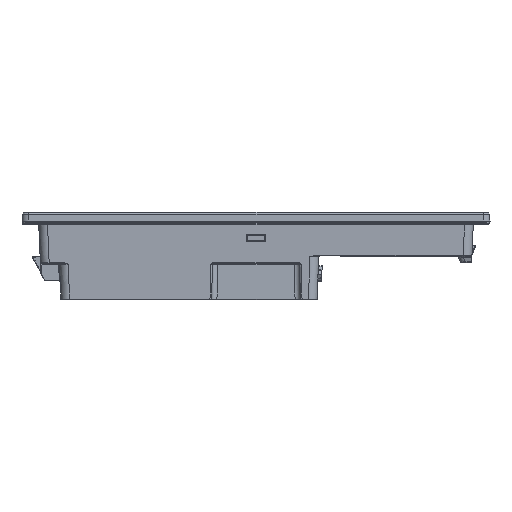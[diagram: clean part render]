
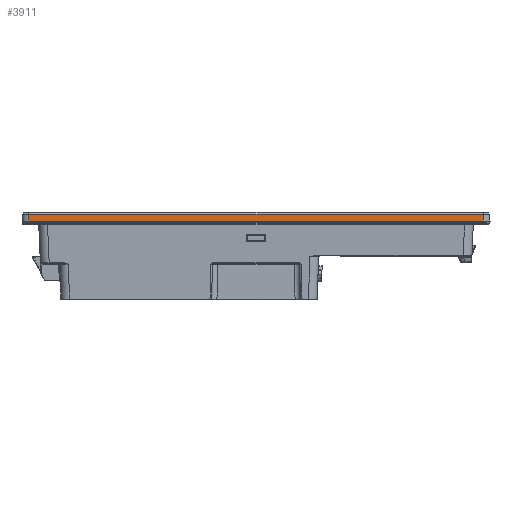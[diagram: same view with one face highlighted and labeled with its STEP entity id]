
A CAD part, left-side view. The second image highlights one B-rep face of the part: STEP entity #3911.
In plain terms, the highlighted planar face has unit normal (-1, 0, 0).
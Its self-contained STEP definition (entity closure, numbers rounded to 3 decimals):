
#575 = FACE_OUTER_BOUND ( 'NONE', #40492, .T. ) ;
#1556 = CARTESIAN_POINT ( 'NONE',  ( 0., 264., 45. ) ) ;
#2416 = CARTESIAN_POINT ( 'NONE',  ( 0., 134., 47. ) ) ;
#3911 = ADVANCED_FACE ( 'NONE', ( #575 ), #15491, .F. ) ;
#6215 = VERTEX_POINT ( 'NONE', #37301 ) ;
#7930 = VECTOR ( 'NONE', #21344, 1000. ) ;
#8009 = CARTESIAN_POINT ( 'NONE',  ( 0., 134., 45. ) ) ;
#8173 = CARTESIAN_POINT ( 'NONE',  ( 0., 264., 49. ) ) ;
#8910 = DIRECTION ( 'NONE',  ( 0., 0., -1. ) ) ;
#11237 = CARTESIAN_POINT ( 'NONE',  ( 0., 4., 45. ) ) ;
#13918 = CARTESIAN_POINT ( 'NONE',  ( 0., 264., 49. ) ) ;
#15491 = PLANE ( 'NONE',  #37176 ) ;
#16656 = LINE ( 'NONE', #8009, #7930 ) ;
#18787 = ORIENTED_EDGE ( 'NONE', *, *, #39276, .F. ) ;
#19461 = EDGE_CURVE ( 'NONE', #22579, #29236, #33512, .T. ) ;
#20675 = ORIENTED_EDGE ( 'NONE', *, *, #28034, .F. ) ;
#21210 = CARTESIAN_POINT ( 'NONE',  ( 0., 264., 46.333 ) ) ;
#21344 = DIRECTION ( 'NONE',  ( 0., 1., 0. ) ) ;
#21613 = B_SPLINE_CURVE_WITH_KNOTS ( 'NONE', 3,
 ( #27588, #40573, #30883, #11237 ),
 .UNSPECIFIED., .F., .F.,
 ( 4, 4 ),
 ( 0., 1. ),
 .UNSPECIFIED. ) ;
#22274 = CARTESIAN_POINT ( 'NONE',  ( 0., 4., 49. ) ) ;
#22579 = VERTEX_POINT ( 'NONE', #22274 ) ;
#23830 = EDGE_CURVE ( 'NONE', #22579, #6215, #21613, .T. ) ;
#27588 = CARTESIAN_POINT ( 'NONE',  ( 0., 4., 49. ) ) ;
#27834 = CARTESIAN_POINT ( 'NONE',  ( 0., 264., 47.667 ) ) ;
#28034 = EDGE_CURVE ( 'NONE', #6215, #34991, #16656, .T. ) ;
#29236 = VERTEX_POINT ( 'NONE', #13918 ) ;
#30883 = CARTESIAN_POINT ( 'NONE',  ( 0., 4., 46.333 ) ) ;
#31009 = ORIENTED_EDGE ( 'NONE', *, *, #23830, .F. ) ;
#31625 = DIRECTION ( 'NONE',  ( 0., 1., 0. ) ) ;
#31657 = ORIENTED_EDGE ( 'NONE', *, *, #19461, .T. ) ;
#31663 = B_SPLINE_CURVE_WITH_KNOTS ( 'NONE', 3,
 ( #1556, #21210, #27834, #8173 ),
 .UNSPECIFIED., .F., .F.,
 ( 4, 4 ),
 ( 0., 1. ),
 .UNSPECIFIED. ) ;
#31872 = DIRECTION ( 'NONE',  ( 1., 0., 0. ) ) ;
#33197 = CARTESIAN_POINT ( 'NONE',  ( 0., 264., 45. ) ) ;
#33512 = LINE ( 'NONE', #41281, #41119 ) ;
#34991 = VERTEX_POINT ( 'NONE', #33197 ) ;
#37176 = AXIS2_PLACEMENT_3D ( 'NONE', #2416, #31872, #8910 ) ;
#37301 = CARTESIAN_POINT ( 'NONE',  ( 0., 4., 45. ) ) ;
#39276 = EDGE_CURVE ( 'NONE', #34991, #29236, #31663, .T. ) ;
#40492 = EDGE_LOOP ( 'NONE', ( #31009, #31657, #18787, #20675 ) ) ;
#40573 = CARTESIAN_POINT ( 'NONE',  ( 0., 4., 47.667 ) ) ;
#41119 = VECTOR ( 'NONE', #31625, 1000. ) ;
#41281 = CARTESIAN_POINT ( 'NONE',  ( 0., 134., 49. ) ) ;
